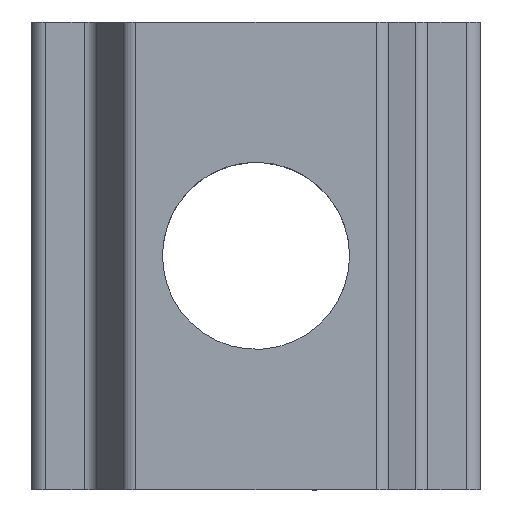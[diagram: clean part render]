
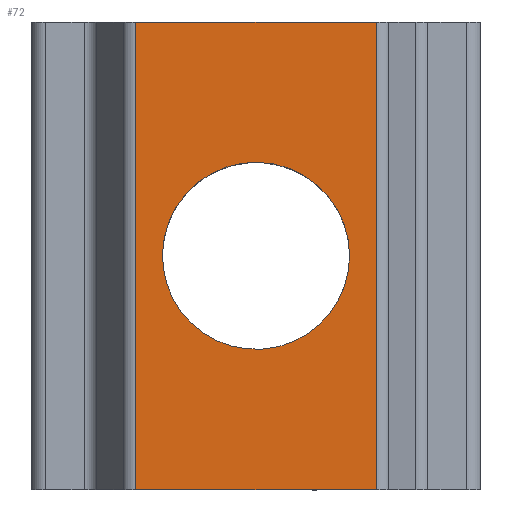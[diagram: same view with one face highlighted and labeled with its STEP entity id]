
A CAD part, top view. The second image highlights one B-rep face of the part: STEP entity #72.
In plain terms, the highlighted planar face has unit normal (0, 0, 1).
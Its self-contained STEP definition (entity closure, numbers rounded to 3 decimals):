
#72=ADVANCED_FACE('',(#152,#153),#154,.F.);
#152=FACE_BOUND('',#239,.T.);
#153=FACE_OUTER_BOUND('',#240,.T.);
#154=PLANE('',#241);
#239=EDGE_LOOP('',(#393));
#240=EDGE_LOOP('',(#394,#395,#396,#397));
#241=AXIS2_PLACEMENT_3D('',#398,#399,#400);
#393=ORIENTED_EDGE('',*,*,#598,.T.);
#394=ORIENTED_EDGE('',*,*,#579,.T.);
#395=ORIENTED_EDGE('',*,*,#599,.F.);
#396=ORIENTED_EDGE('',*,*,#600,.F.);
#397=ORIENTED_EDGE('',*,*,#601,.T.);
#398=CARTESIAN_POINT('',(53.674,26.134,-28.734));
#399=DIRECTION('',(0.,0.0,-1.0));
#400=DIRECTION('',(1.0,0.0,0.));
#579=EDGE_CURVE('',#710,#708,#711,.T.);
#598=EDGE_CURVE('',#738,#738,#739,.T.);
#599=EDGE_CURVE('',#740,#708,#741,.T.);
#600=EDGE_CURVE('',#742,#740,#743,.T.);
#601=EDGE_CURVE('',#742,#710,#744,.T.);
#708=VERTEX_POINT('',#885);
#710=VERTEX_POINT('',#887);
#711=LINE('',#888,#889);
#738=VERTEX_POINT('',#928);
#739=CIRCLE('',#929,2.0);
#740=VERTEX_POINT('',#930);
#741=LINE('',#931,#932);
#742=VERTEX_POINT('',#933);
#743=LINE('',#934,#935);
#744=LINE('',#936,#937);
#885=CARTESIAN_POINT('',(48.521,36.134,-28.734));
#887=CARTESIAN_POINT('',(53.674,36.134,-28.734));
#888=CARTESIAN_POINT('',(53.674,36.134,-28.734));
#889=VECTOR('',#1052,1.0);
#928=CARTESIAN_POINT('',(53.097,31.134,-28.734));
#929=AXIS2_PLACEMENT_3D('',#1075,#1076,#1077);
#930=CARTESIAN_POINT('',(48.521,26.134,-28.734));
#931=CARTESIAN_POINT('',(48.521,26.134,-28.734));
#932=VECTOR('',#1078,1.0);
#933=CARTESIAN_POINT('',(53.674,26.134,-28.734));
#934=CARTESIAN_POINT('',(53.674,26.134,-28.734));
#935=VECTOR('',#1079,1.0);
#936=CARTESIAN_POINT('',(53.674,26.134,-28.734));
#937=VECTOR('',#1080,1.0);
#1052=DIRECTION('',(-1.0,0.0,0.));
#1075=CARTESIAN_POINT('',(51.097,31.134,-28.734));
#1076=DIRECTION('',(0.0,0.0,-1.0));
#1077=DIRECTION('',(1.0,0.0,0.0));
#1078=DIRECTION('',(0.0,1.0,0.0));
#1079=DIRECTION('',(-1.0,0.0,0.));
#1080=DIRECTION('',(0.0,1.0,0.0));
